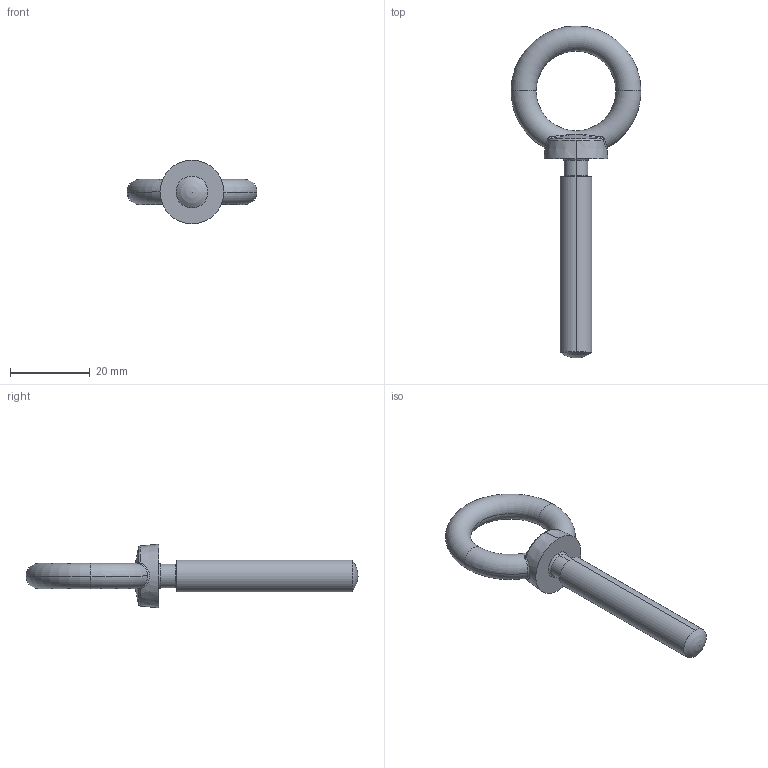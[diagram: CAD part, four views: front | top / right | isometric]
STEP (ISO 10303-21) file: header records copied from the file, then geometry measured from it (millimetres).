
FILE_DESCRIPTION (( 'STEP AP203' ), '1' );
FILE_NAME ('EB-901(S)-0850.STEP', '2013-07-03T08:33:48', ( 'SDS' ), ( 'SDS' ), 'SwSTEP 2.0', 'SolidWorks 2002296', '' );
FILE_SCHEMA (( 'CONFIG_CONTROL_DESIGN' ));
Length unit declared in the file: millimetre
Products named in the file (1): EB-901(S)-0850
Bounding box: 32.6 x 83.3 x 16 mm (x, y, z)
Volume: 5648.6 mm3; surface area: 3201.6 mm2
Topology: 1 solids, 1 shells, 31 faces, 72 edges, 42 vertices
Faces by surface type: torus 11, bspline 8, cone 5, cylinder 4, plane 2, sphere 1
Entity records: 6360 total; most frequent: CARTESIAN_POINT 5620, DIRECTION 141, ORIENTED_EDGE 138, EDGE_CURVE 69, AXIS2_PLACEMENT_3D 67, CIRCLE 43, VERTEX_POINT 40, EDGE_LOOP 33
